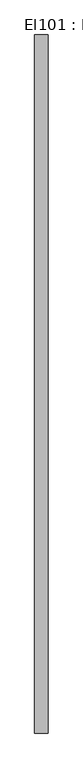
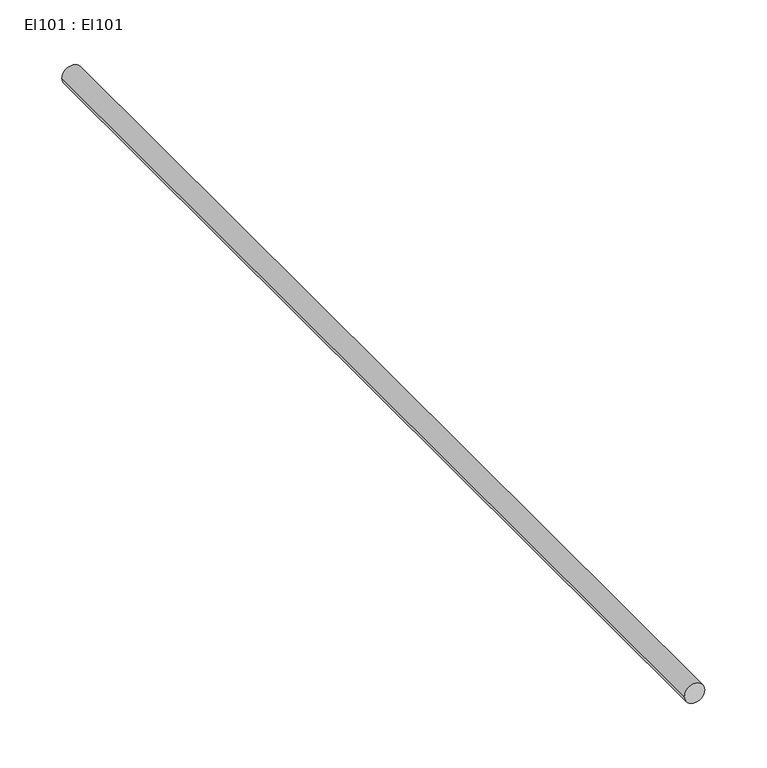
"""IFC4 building model written with IfcOpenShell, lengths in millimetres: cable carrier segment geometry, El101 : El101."""

import ifcopenshell
import ifcopenshell.guid

model = None  # the IFC model being written
_history = None  # IfcOwnerHistory: only IFC2X3 demands one
_inside = {}  # id of a spatial element -> (the spatial element, [elements in it])
_under = {}  # id of a project, library or spatial element -> (it, [spatial elements below it])
_declared = {}  # id of a project -> (the project, [libraries it declares])
_typed = {}  # id of a type object -> (the type object, [elements of that type])
_made_of = {}  # id of a material, layer set ... -> (it, [elements and type objects made of it])


def new_model(schema):
    """Start an empty IFC model of exactly this schema.

    Asked for "IFC4X3", IfcOpenShell would pick the latest addendum, in which some entities
    have other attributes; the version numbers below select the first issue.
    IFC2X3 requires an IfcOwnerHistory on every rooted entity: one is made here for all.
    """
    global model, _history
    if schema == "IFC4X3":
        model = ifcopenshell.file(schema_version=(4, 3, 0, 0))
    else:
        model = ifcopenshell.file(schema=schema)
    _inside.clear()
    _under.clear()
    _declared.clear()
    _typed.clear()
    _made_of.clear()
    _history = None
    if model.schema == "IFC2X3":
        org = make("IfcOrganization", Name="unknown")
        user = make(
            "IfcPersonAndOrganization",
            ThePerson=make("IfcPerson", FamilyName="unknown"),
            TheOrganization=org,
        )
        app = make(
            "IfcApplication",
            ApplicationDeveloper=org,
            Version="unknown",
            ApplicationFullName="unknown",
            ApplicationIdentifier="unknown",
        )
        _history = make(
            "IfcOwnerHistory",
            OwningUser=user,
            OwningApplication=app,
            ChangeAction="ADDED",
            CreationDate=0,
        )
    return model


def make(cls, **values):
    """One entity of the class cls with the attributes given. An attribute that is None is left unset."""
    return model.create_entity(
        cls, **{name: value for name, value in values.items() if value is not None}
    )


def rooted(cls, **values):
    """An entity with a GlobalId (a new one), such as an element, a storey or a relation."""
    return make(cls, GlobalId=ifcopenshell.guid.new(), OwnerHistory=_history, **values)


def si_unit(unit_type, name, prefix=None):
    """IfcSIUnit, for example si_unit("LENGTHUNIT", "METRE", prefix="MILLI")."""
    return make("IfcSIUnit", UnitType=unit_type, Prefix=prefix, Name=name)


def assignment(units):
    """IfcUnitAssignment: the units of a project."""
    return None if units is None else make("IfcUnitAssignment", Units=units)


def point(xyz):
    """IfcCartesianPoint."""
    return None if xyz is None else make("IfcCartesianPoint", Coordinates=xyz)


def direction(xyz):
    """IfcDirection."""
    return None if xyz is None else make("IfcDirection", DirectionRatios=xyz)


def frame(location, z_axis=None, x_axis=None):
    """IfcAxis2Placement3D, a coordinate frame: its origin and axes. An axis left out is left unset."""
    return make(
        "IfcAxis2Placement3D",
        Location=point(location),
        Axis=direction(z_axis),
        RefDirection=direction(x_axis),
    )


def frame_2d(location, x_axis=None):
    """IfcAxis2Placement2D, a coordinate frame in the plane: its origin and x axis."""
    return make(
        "IfcAxis2Placement2D", Location=point(location), RefDirection=direction(x_axis)
    )


def origin():
    """The frame at (0, 0, 0) with its axes left unset."""
    return frame((0.0, 0.0, 0.0))


def place(relative_to, where):
    """IfcLocalPlacement: puts the frame where relative to a parent placement (None: the world)."""
    return make(
        "IfcLocalPlacement", PlacementRelTo=relative_to, RelativePlacement=where
    )


def context(
    kind, dimensions, precision=None, world=None, true_north=None, identifier=None
):
    """IfcGeometricRepresentationContext, for example the 3D "Model" context."""
    return make(
        "IfcGeometricRepresentationContext",
        ContextIdentifier=identifier,
        ContextType=kind,
        CoordinateSpaceDimension=dimensions,
        Precision=precision,
        WorldCoordinateSystem=world,
        TrueNorth=true_north,
    )


def project(units=None, contexts=None):
    """IfcProject with its units and contexts."""
    return rooted(
        "IfcProject",
        Name="project",
        RepresentationContexts=contexts,
        UnitsInContext=assignment(units),
    )


def spatial(cls, under=None, at=None, **own):
    """A site, building, storey or space (cls), placed at a placement, below another one or the project."""
    s = rooted(cls, ObjectPlacement=at, **own)
    if under is not None:
        _under.setdefault(under.id(), (under, []))[1].append(s)
    return s


def circle_curve(where, radius):
    """IfcCircle in the frame where."""
    return make("IfcCircle", Position=where, Radius=radius)


def trimmed(basis, trim1, trim2, sense, master):
    """IfcTrimmedCurve: the piece of a basis curve between two trims."""
    return make(
        "IfcTrimmedCurve",
        BasisCurve=basis,
        Trim1=trim1,
        Trim2=trim2,
        SenseAgreement=sense,
        MasterRepresentation=master,
    )


def segment(curve, same_sense, transition):
    """IfcCompositeCurveSegment."""
    return make(
        "IfcCompositeCurveSegment",
        Transition=transition,
        SameSense=same_sense,
        ParentCurve=curve,
    )


def composite_curve(segments, self_intersect=None):
    """IfcCompositeCurve: segments joined end to end."""
    return make("IfcCompositeCurve", Segments=segments, SelfIntersect=self_intersect)


def outline(outer, holes=None, kind="AREA"):
    """IfcArbitraryClosedProfileDef: a profile drawn as a closed curve; with holes, ...WithVoids."""
    if holes is None:
        return make("IfcArbitraryClosedProfileDef", ProfileType=kind, OuterCurve=outer)
    return make(
        "IfcArbitraryProfileDefWithVoids",
        ProfileType=kind,
        OuterCurve=outer,
        InnerCurves=holes,
    )


def extrude(swept, where, along, depth):
    """IfcExtrudedAreaSolid: the profile swept, set in the frame where, extruded along a direction by depth."""
    return make(
        "IfcExtrudedAreaSolid",
        SweptArea=swept,
        Position=where,
        ExtrudedDirection=direction(along),
        Depth=depth,
    )


def shape(context_of_items, identifier, shape_type, items):
    """IfcShapeRepresentation: the items that make up one representation, for example the "Body"."""
    return make(
        "IfcShapeRepresentation",
        ContextOfItems=context_of_items,
        RepresentationIdentifier=identifier,
        RepresentationType=shape_type,
        Items=items,
    )


def source(mapping_origin, context_of_items, identifier, shape_type, items):
    """IfcRepresentationMap: a shape defined once, which mapped items show again and again."""
    return make(
        "IfcRepresentationMap",
        MappingOrigin=mapping_origin,
        MappedRepresentation=shape(context_of_items, identifier, shape_type, items),
    )


def transform(
    local_origin,
    x_axis=None,
    y_axis=None,
    z_axis=None,
    scale=None,
    scale2=None,
    scale3=None,
    uniform=True,
):
    """IfcCartesianTransformationOperator3D, or its non-uniform kind. x_axis, y_axis, z_axis: its Axis1, 2, 3."""
    if uniform:
        return make(
            "IfcCartesianTransformationOperator3D",
            Axis1=direction(x_axis),
            Axis2=direction(y_axis),
            LocalOrigin=point(local_origin),
            Scale=scale,
            Axis3=direction(z_axis),
        )
    return make(
        "IfcCartesianTransformationOperator3DnonUniform",
        Axis1=direction(x_axis),
        Axis2=direction(y_axis),
        LocalOrigin=point(local_origin),
        Scale=scale,
        Axis3=direction(z_axis),
        Scale2=scale2,
        Scale3=scale3,
    )


def mapped(mapping_source, mapping_target):
    """IfcMappedItem: shows the shape of a source again, moved by a transform."""
    return make(
        "IfcMappedItem", MappingSource=mapping_source, MappingTarget=mapping_target
    )


def made_of(thing, what):
    """Note that an element or type object is made of a material, layer set ...; save() writes the relation."""
    if what is not None:
        _made_of.setdefault(what.id(), (what, []))[1].append(thing)
    return thing


def element(
    cls,
    number,
    at=None,
    inside=None,
    cuts=None,
    type_object=None,
    material=None,
    context=None,
    identifier="Body",
    shape_type=None,
    held_by="IfcProductDefinitionShape",
    body=None,
    shapes=None,
    **own,
):
    """One element of the class cls, such as IfcWall. Its Tag is "e" and its number.

    at: its placement. inside: the storey or other place that contains it. cuts: it is an
    opening in that element (IfcRelVoidsElement). A single representation is given by context,
    identifier, shape_type and body (its items); several are given by shapes. held_by: the class
    of the entity that holds the representations. save() writes the other relations.
    """
    e = rooted(cls, Tag="e%d" % number, ObjectPlacement=at, **own)
    if body is not None:
        shapes = [shape(context, identifier, shape_type, body)]
    if shapes is not None:
        e.Representation = make(held_by, Representations=shapes)
    if inside is not None:
        _inside.setdefault(inside.id(), (inside, []))[1].append(e)
    if cuts is not None:
        rooted(
            "IfcRelVoidsElement", RelatingBuildingElement=cuts, RelatedOpeningElement=e
        )
    if type_object is not None:
        _typed.setdefault(type_object.id(), (type_object, []))[1].append(e)
    return made_of(e, material)


def aggregate(whole, parts):
    """IfcRelAggregates: a whole, such as a stair, and the parts it consists of."""
    return rooted("IfcRelAggregates", RelatingObject=whole, RelatedObjects=parts)


def save(model, path):
    """Write the relations noted so far, then the file.

    IfcRelAggregates (storeys below a building ...), IfcRelContainedInSpatialStructure (elements
    in a storey), IfcRelDefinesByType, IfcRelAssociatesMaterial and IfcRelDeclares: one each for
    every whole, place, type object, material and project.
    """
    for whole, parts in _under.values():
        aggregate(whole, parts)
    for where, things in _inside.values():
        rooted(
            "IfcRelContainedInSpatialStructure",
            RelatedElements=things,
            RelatingStructure=where,
        )
    for kind, things in _typed.values():
        rooted("IfcRelDefinesByType", RelatedObjects=things, RelatingType=kind)
    for what, things in _made_of.values():
        rooted("IfcRelAssociatesMaterial", RelatedObjects=things, RelatingMaterial=what)
    for by, libraries in _declared.values():
        rooted("IfcRelDeclares", RelatingContext=by, RelatedDefinitions=libraries)
    model.write(path)


def el101_el101_7c07f139(model_context):
    return source(origin(), model_context, "Body", "SweptSolid", [
        extrude(outline(composite_curve([segment(trimmed(circle_curve(frame_2d((300.0, 26330.0)), 9.5), [point((300.0, 26320.5))], [point((300.0, 26339.5))], False, "CARTESIAN"), True, "CONTINUOUS"), segment(trimmed(circle_curve(frame_2d((300.0, 26330.0)), 9.5), [point((300.0, 26339.5))], [point((300.0, 26320.5))], False, "CARTESIAN"), True, "CONTINUOUS")], self_intersect=False)), frame((0.0, 16705.317, 0.0), z_axis=(0.0, 1.0, 0.0), x_axis=(0.0, 0.0, 1.0)), (0.0, 0.0, 1.0), 1005.77),
    ])


if __name__ == "__main__":
    model = new_model("IFC4")
    model_context = context("Model", 3, world=origin())
    ifc_project = project(units=[si_unit("LENGTHUNIT", "METRE", prefix="MILLI")], contexts=[model_context])
    site = spatial("IfcSite", under=ifc_project)
    building = spatial("IfcBuilding", under=site)
    placement = place(None, origin())
    el101_el101_shape = el101_el101_7c07f139(model_context)
    element("IfcCableCarrierSegment", 1, ObjectType="El101 : El101", at=placement, inside=building, context=model_context, shape_type="MappedRepresentation", body=[
        mapped(el101_el101_shape, transform((0.0, 0.0, 0.0), x_axis=(1.0, 0.0, 0.0), y_axis=(0.0, 1.0, 0.0), z_axis=(0.0, 0.0, 1.0))),
    ])
    save(model, "model.ifc")
